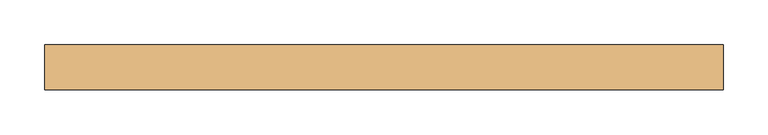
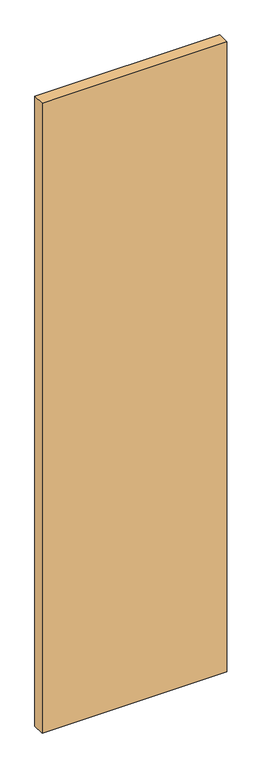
"""IFC4 building model written with IfcOpenShell, lengths in millimetres: door geometry, Planitar - Swap_Flush Panel : Planitar - Swap_Flush Panel."""

from ifc_helpers import new_model, si_unit, origin, origin_with_axes, place, context, project, spatial, polyline, outline, extrude, source, transform, mapped, element, save


def door_f305abca(model_context):
    return source(origin(), model_context, "Body", "SweptSolid", [
        extrude(outline(polyline([(381.0, -25.4), (-381.0, -25.4), (-381.0, 25.4), (381.0, 25.4), (381.0, -25.4)])), origin_with_axes(), (0.0, 0.0, 1.0), 2743.2),
    ])


if __name__ == "__main__":
    model = new_model("IFC4")
    model_context = context("Model", 3, world=origin())
    ifc_project = project(units=[si_unit("LENGTHUNIT", "METRE", prefix="MILLI")], contexts=[model_context])
    site = spatial("IfcSite", under=ifc_project)
    building = spatial("IfcBuilding", under=site)
    placement = place(None, origin())
    door_shape = door_f305abca(model_context)
    element("IfcDoor", 1, ObjectType="Planitar - Swap_Flush Panel : Planitar - Swap_Flush Panel", at=placement, inside=building, context=model_context, shape_type="MappedRepresentation", body=[
        mapped(door_shape, transform((0.0, 0.0, 0.0), x_axis=(1.0, 0.0, 0.0), y_axis=(0.0, 1.0, 0.0), z_axis=(0.0, 0.0, 1.0))),
    ])
    save(model, "model.ifc")
